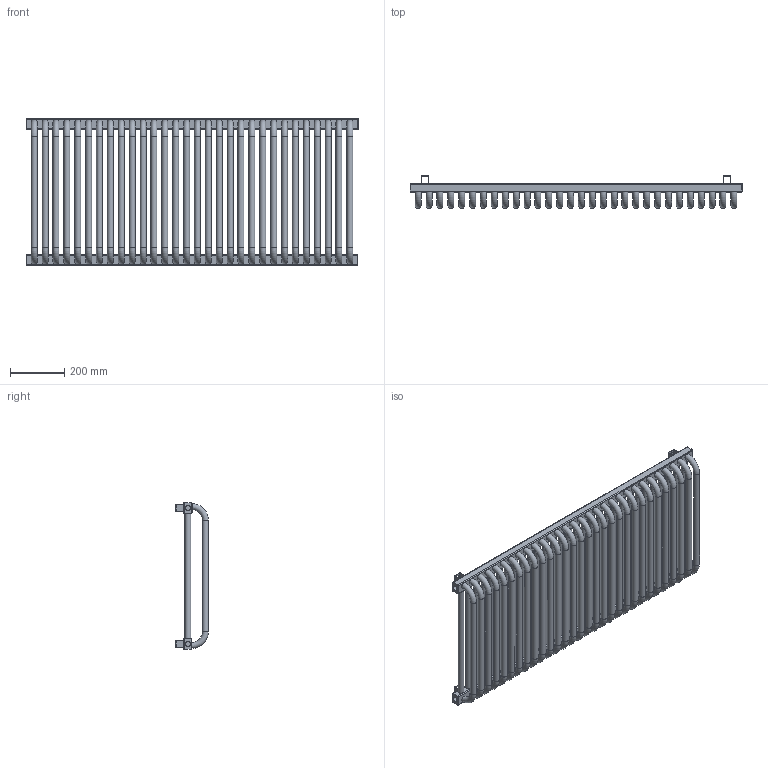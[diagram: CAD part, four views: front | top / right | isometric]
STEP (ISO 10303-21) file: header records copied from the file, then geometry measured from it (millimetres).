
FILE_DESCRIPTION((''),'2;1');
FILE_NAME('Z:\R\G\P\RGPH03 - Grzejnik Dobus\Work\Inventor\Marketing\STEP\DF-54-12-L6.stp','2012-07-25T11:34:41',('PioRo'),(''),'Autodesk Inventor 2012','Autodesk Inventor 2012','');
FILE_SCHEMA(('CONFIG_CONTROL_DESIGN'));
Length unit declared in the file: millimetre
Products named in the file (1): Część1
Bounding box: 1220 x 120 x 540 mm (x, y, z)
Volume: 14602334 mm3; surface area: 2432286.4 mm2
Topology: 5 solids, 5 shells, 270 faces, 673 edges, 418 vertices
Faces by surface type: cylinder 115, plane 79, torus 76
Full cylindrical faces by diameter (mm): 0.1 x4, 18.631 x3, 22 x60
Entity records: 11693 total; most frequent: CARTESIAN_POINT 5135, DIRECTION 1274, ORIENTED_EDGE 1092, EDGE_CURVE 546, EDGE_LOOP 528, AXIS2_PLACEMENT_3D 517, VERTEX_POINT 418, FACE_OUTER_BOUND 270
